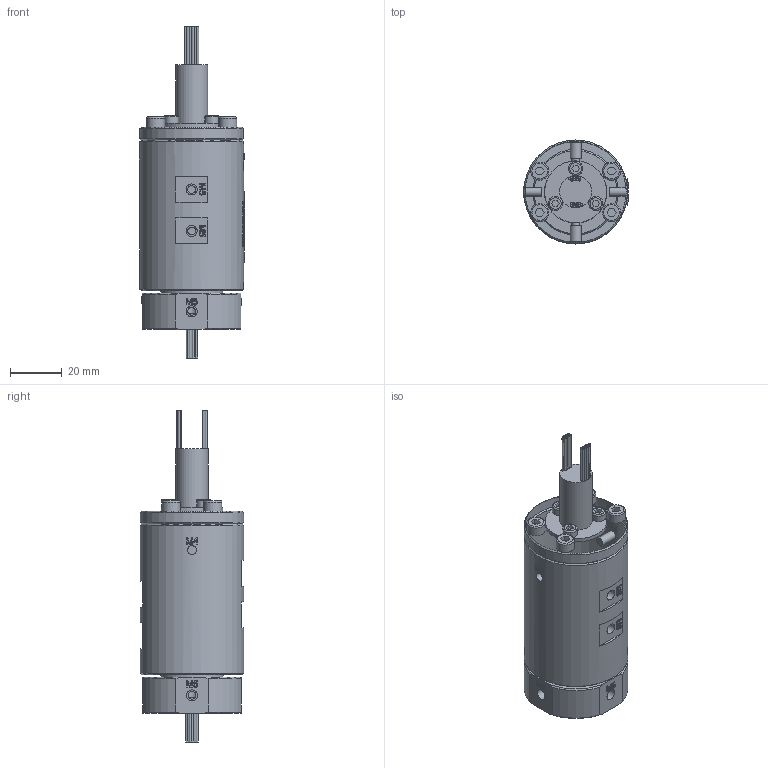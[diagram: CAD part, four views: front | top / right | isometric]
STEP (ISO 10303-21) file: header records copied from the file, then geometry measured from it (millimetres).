
FILE_DESCRIPTION(/* description */ (''),/* implementation_level */ '2;1');
FILE_NAME(/* name */ 'HQ04005-18M.stp',/* time_stamp */ '2025-09-01T15:45:19+08:00',/* author */ (''),/* organization */ (''),/* preprocessor_version */ 'ST-DEVELOPER v16.7',/* originating_system */ 'SIEMENS PLM Software NX 12.0',/* authorisation */ '');
FILE_SCHEMA (('AUTOMOTIVE_DESIGN { 1 0 10303 214 3 1 1 1 }'));
Length unit declared in the file: millimetre
Products named in the file (1): AdmiB44865CDwcvu
Bounding box: 40.68 x 40 x 128 mm (x, y, z)
Volume: 98809.5 mm3; surface area: 19850.5 mm2
Topology: 1 solids, 9 shells, 1253 faces, 3306 edges, 2205 vertices
Faces by surface type: plane 601, extrusion 453, cylinder 117, bspline 50, cone 25, torus 7
Full cylindrical faces by diameter (mm): 0.8 x37, 3 x11, 3.4 x9, 4 x8, 4.1 x4, 4.2 x12, 5 x1, 5.5 x3, 6 x1, 7 x4, 12.4 x1, 23.9 x1, 24 x1, 32 x1, 40 x2
Entity records: 45425 total; most frequent: CARTESIAN_POINT 18903, ORIENTED_EDGE 6240, DIRECTION 3483, EDGE_CURVE 3120, B_SPLINE_CURVE_WITH_KNOTS 2448, VERTEX_POINT 2145, EDGE_LOOP 1533, ADVANCED_FACE 1253
